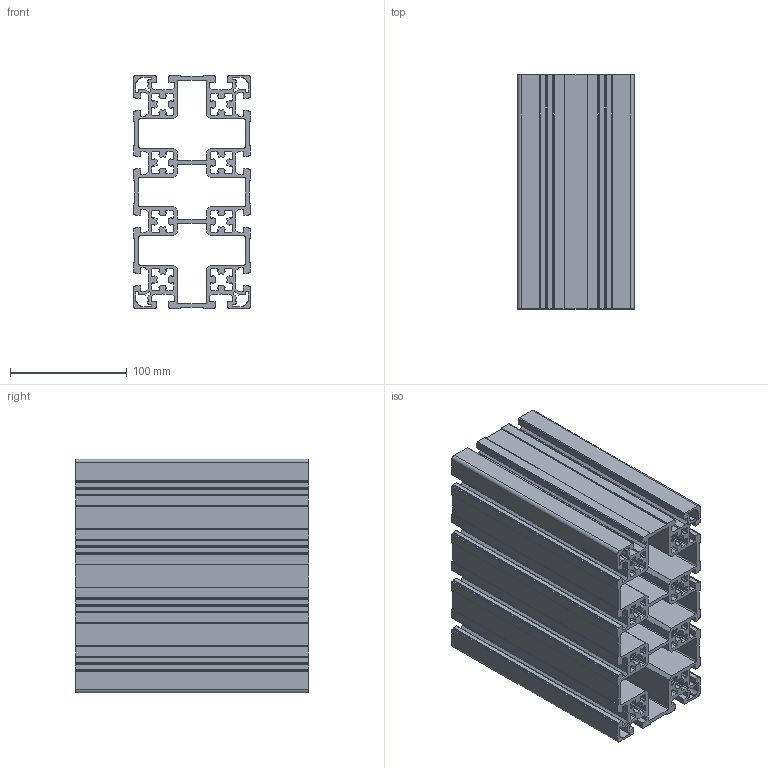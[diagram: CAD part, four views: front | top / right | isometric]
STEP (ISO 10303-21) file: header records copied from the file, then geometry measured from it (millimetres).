
FILE_DESCRIPTION( ( 'Unknown' ), '1' );
FILE_NAME( 'C:/work/B10-100200L/B10-100200.stp', 'Unknown', ( 'Unknown' ), ( 'Unknown' ), 'XStep 1.0', 'Unknown', ' ' );
FILE_SCHEMA( ( 'automotive_design' ) );
Length unit declared in the file: millimetre
Products named in the file (1): 1
Bounding box: 100 x 200 x 200 mm (x, y, z)
Volume: 1103343 mm3; surface area: 626080.5 mm2
Topology: 1 solids, 1 shells, 1114 faces, 3336 edges, 2224 vertices
Faces by surface type: cylinder 620, plane 494
Entity records: 46948 total; most frequent: DIRECTION 6806, CARTESIAN_POINT 6675, ORIENTED_EDGE 6672, EDGE_CURVE 3336, AXIS2_PLACEMENT_3D 2355, VERTEX_POINT 2224, LINE 2096, VECTOR 2096
